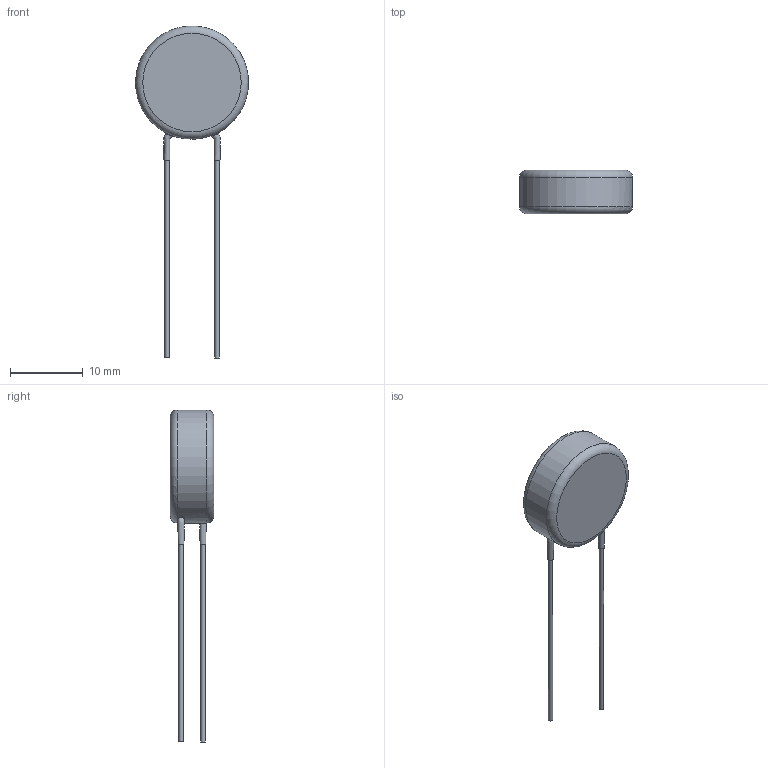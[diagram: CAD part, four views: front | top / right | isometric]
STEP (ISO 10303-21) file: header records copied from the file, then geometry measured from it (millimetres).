
FILE_DESCRIPTION(/* description */ (''),/* implementation_level */ '2;1');
FILE_NAME(/* name */ 'I:\Marketing\M6t1\3D-Models\Zchng-Werk-3\Upload for homepage\BCC neu\AY2 Straight\Step\AY2103M61Y5VS63L7.stp',/* time_stamp */ '2023-07-13T14:09:36+02:00',/* author */ ('truediger'),/* organization */ (''),/* preprocessor_version */ 'ST-DEVELOPER v18',/* originating_system */ 'Autodesk Inventor 2020',/* authorisation */ '');
FILE_SCHEMA (('AUTOMOTIVE_DESIGN { 1 0 10303 214 3 1 1 }'));
Length unit declared in the file: millimetre
Products named in the file (1): Bauteil2
Bounding box: 15.5 x 6 x 45.5 mm (x, y, z)
Volume: 1131.3 mm3; surface area: 747.9 mm2
Topology: 1 solids, 1 shells, 19 faces, 43 edges, 28 vertices
Faces by surface type: bspline 8, plane 6, cylinder 3, torus 2
Full cylindrical faces by diameter (mm): 0.6 x2, 15.5 x1
Entity records: 1916 total; most frequent: CARTESIAN_POINT 1455, ORIENTED_EDGE 86, DIRECTION 75, EDGE_CURVE 43, AXIS2_PLACEMENT_3D 36, VERTEX_POINT 28, CIRCLE 24, EDGE_LOOP 21
